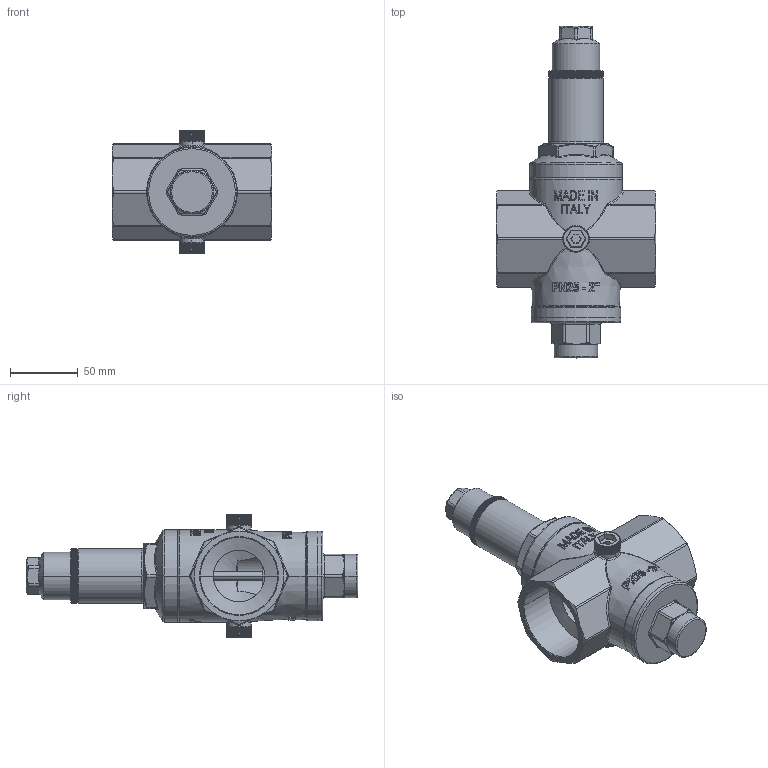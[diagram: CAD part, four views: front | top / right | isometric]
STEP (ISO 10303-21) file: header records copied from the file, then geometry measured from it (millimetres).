
FILE_DESCRIPTION((''),'2;1');
FILE_NAME('504050_ASM','2021-09-03T',('ufficiotecnico'),(''),'CREO PARAMETRIC BY PTC INC, 2016380','CREO PARAMETRIC BY PTC INC, 2016380','');
FILE_SCHEMA(('CONFIG_CONTROL_DESIGN'));
Products named in the file (10): 504050_AL; 504050_U; 504050_ALS_ASM; 490015_L; 504050_CL; 502050_F; 502032_BL; 502032_IL; 524032_D; 504050_ASM
Assembly tree (10 placements, depth 3):
  504050_ASM
    504050_ALS_ASM
      504050_AL
      504050_U
    490015_L  x2
    504050_CL
    502050_F
    502032_BL
    502032_IL
    524032_D
Bounding box: 118 x 245.1 x 91 mm (x, y, z)
Volume: 306452.8 mm3; surface area: 138337.6 mm2
Topology: 11 solids, 11 shells, 6276 faces, 13760 edges, 7549 vertices
Faces by surface type: plane 4407, cylinder 1199, torus 232, bspline 183, cone 121, extrusion 96, sphere 38
Entity records: 201349 total; most frequent: CARTESIAN_POINT 85576, ORIENTED_EDGE 25656, DIRECTION 20309, EDGE_CURVE 12828, VERTEX_POINT 7005, AXIS2_PLACEMENT_3D 6964, VECTOR 6381, LINE 6285
